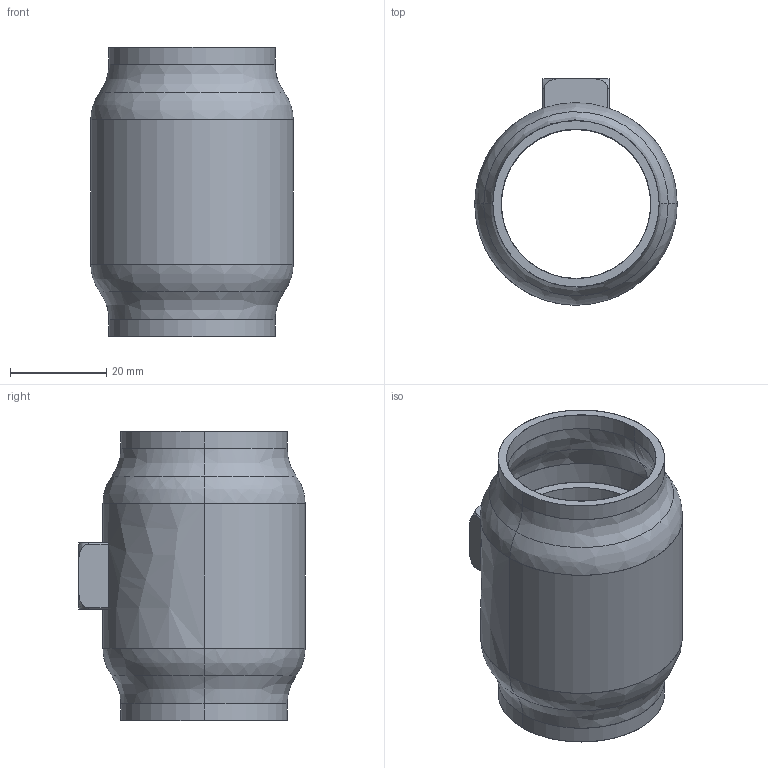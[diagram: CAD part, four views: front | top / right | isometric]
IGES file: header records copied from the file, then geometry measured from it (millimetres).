
Start section: SolidWorks IGES file using analytic representation for surfaces
Global section: file name: C:\HEMSIDA\cad\SLDPRT_2010\wn600\\wn600-30.igs; native system: SolidWorks 2010; preprocessor: SolidWorks 2010; author: Administrator; date: 101214.114944; units: millimetre
Bounding box: 42 x 47 x 60 mm (x, y, z)
Surface area: 20574.8 mm2 (no closed solid volume)
Topology: 0 solids, 0 shells, 56 faces, 1065 edges, 1065 vertices
Faces by surface type: bspline 29, revolution 27
